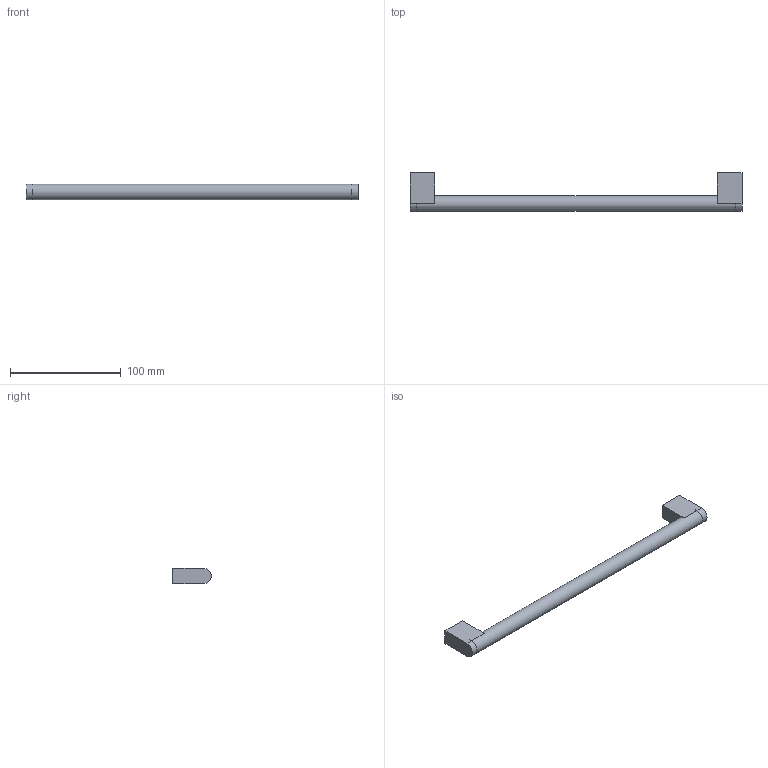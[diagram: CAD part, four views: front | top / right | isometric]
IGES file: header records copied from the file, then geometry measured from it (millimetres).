
Start section: Data from Parasolid IGES Translator 17.0.49, Copyright(c) 2006 Siemens P LM Software. All Rights Reserved.
Global section: file name: 9070108.igs; native system: By Siemens PLM Incorporated; preprocessor: XPlus GENERIC/IGES 17.0.49; author: Noname; organization: Noname; date: 20181120.154659; units: millimetre
Bounding box: 300 x 35 x 14 mm (x, y, z)
Surface area: 18571.8 mm2 (no closed solid volume)
Topology: 0 solids, 0 shells, 21 faces, 82 edges, 78 vertices
Faces by surface type: extrusion 14, revolution 7
